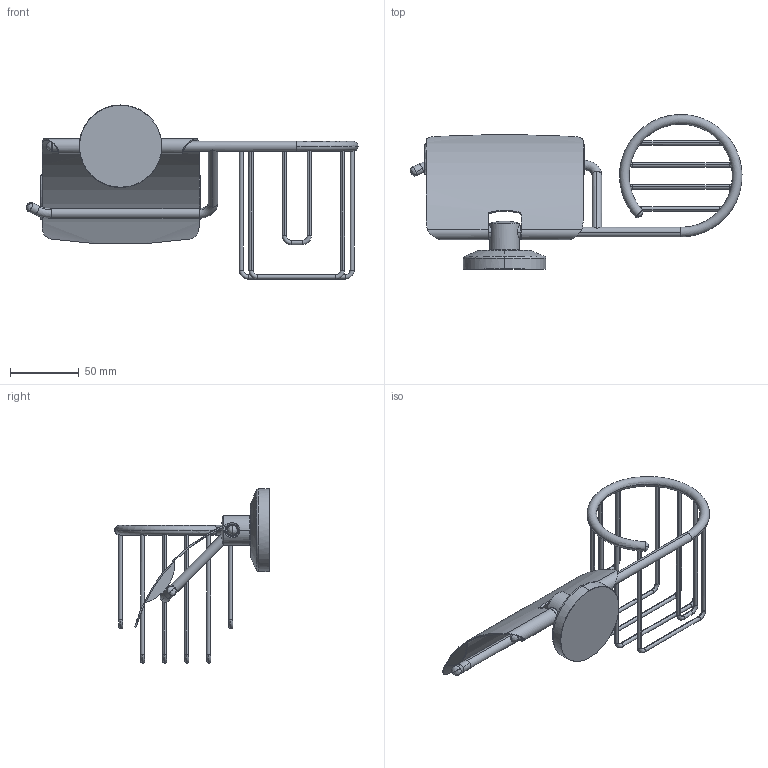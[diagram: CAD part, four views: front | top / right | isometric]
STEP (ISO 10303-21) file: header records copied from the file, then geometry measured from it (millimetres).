
FILE_DESCRIPTION(('THIS FILE CONTAINS SOME STEP INSTANCES'),'1');
FILE_NAME('sta_054.stp','2015-12-07T14:18:25',('UNDEFINED'),('UNDEFINED'),'T-FLEX CAD STEP converter','T-FLEX CAD','');
FILE_SCHEMA(('CONFIG_CONTROL_DESIGN'));
Length unit declared in the file: metre
Products named in the file (3): 3D 鐨飹懤艜_12; UP_053_02
Bounding box: 241.25 x 112.45 x 126.5 mm (x, y, z)
Volume: 87567.4 mm3; surface area: 62844.6 mm2
Topology: 3 solids, 3 shells, 170 faces, 431 edges, 266 vertices
Faces by surface type: cylinder 74, torus 40, plane 23, cone 18, bspline 13, sphere 2
Entity records: 11607 total; most frequent: CARTESIAN_POINT 8237, ORIENTED_EDGE 854, DIRECTION 515, EDGE_CURVE 427, VERTEX_POINT 266, AXIS2_PLACEMENT_3D 210, EDGE_LOOP 183, ADVANCED_FACE 168
